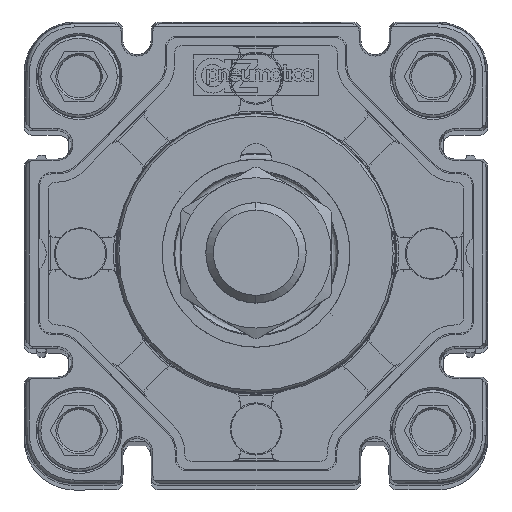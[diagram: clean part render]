
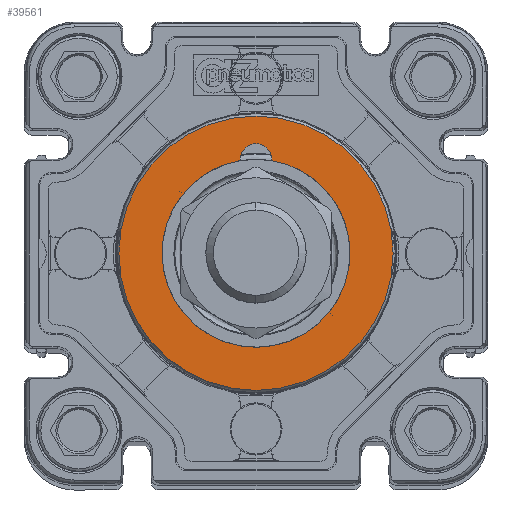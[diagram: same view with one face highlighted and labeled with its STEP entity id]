
A CAD part, top view. The second image highlights one B-rep face of the part: STEP entity #39561.
In plain terms, the highlighted planar face has unit normal (0, 0, 1) as drawn and (0, 0, -1) by its records, which use the part's own axes.
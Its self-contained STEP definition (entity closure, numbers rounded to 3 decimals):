
#42 = ORIENTED_EDGE ( 'NONE', *, *, #23856, .T. ) ;
#242 = DIRECTION ( 'NONE',  ( -1., 0., 0. ) ) ;
#328 = EDGE_LOOP ( 'NONE', ( #26933, #48296 ) ) ;
#825 = VERTEX_POINT ( 'NONE', #51798 ) ;
#1522 = DIRECTION ( 'NONE',  ( 1., 0., 0. ) ) ;
#2790 = AXIS2_PLACEMENT_3D ( 'NONE', #49707, #37179, #1522 ) ;
#2874 = VERTEX_POINT ( 'NONE', #11145 ) ;
#3942 = CARTESIAN_POINT ( 'NONE',  ( 2.5, 15., -57.7 ) ) ;
#5275 = CARTESIAN_POINT ( 'NONE',  ( -15., 0., -57.7 ) ) ;
#5681 = CARTESIAN_POINT ( 'NONE',  ( 0., 0., -57.7 ) ) ;
#6339 = EDGE_CURVE ( 'NONE', #25802, #2874, #6519, .T. ) ;
#6519 = CIRCLE ( 'NONE', #27244, 21.892 ) ;
#6532 = AXIS2_PLACEMENT_3D ( 'NONE', #23706, #16742, #242 ) ;
#8918 = CARTESIAN_POINT ( 'NONE',  ( -2.491, 14.792, -57.7 ) ) ;
#9315 = PLANE ( 'NONE',  #23581 ) ;
#9456 = CIRCLE ( 'NONE', #51568, 2.5 ) ;
#11145 = CARTESIAN_POINT ( 'NONE',  ( 21.892, 0., -57.7 ) ) ;
#11701 = CIRCLE ( 'NONE', #21137, 15. ) ;
#13059 = EDGE_CURVE ( 'NONE', #37349, #40303, #28674, .T. ) ;
#13257 = DIRECTION ( 'NONE',  ( -1., 0., 0. ) ) ;
#13855 = ORIENTED_EDGE ( 'NONE', *, *, #27696, .T. ) ;
#14132 = DIRECTION ( 'NONE',  ( 0., 0., 1. ) ) ;
#14239 = DIRECTION ( 'NONE',  ( 0., 0., 1. ) ) ;
#14777 = VERTEX_POINT ( 'NONE', #5275 ) ;
#14970 = ORIENTED_EDGE ( 'NONE', *, *, #43990, .T. ) ;
#15221 = ORIENTED_EDGE ( 'NONE', *, *, #43258, .T. ) ;
#15534 = DIRECTION ( 'NONE',  ( 0., 0., 1. ) ) ;
#15705 = DIRECTION ( 'NONE',  ( 1., 0., 0. ) ) ;
#16538 = EDGE_CURVE ( 'NONE', #2874, #25802, #22432, .T. ) ;
#16742 = DIRECTION ( 'NONE',  ( 0., 0., 1. ) ) ;
#17090 = CARTESIAN_POINT ( 'NONE',  ( 2.491, 14.792, -57.7 ) ) ;
#18891 = EDGE_LOOP ( 'NONE', ( #14970, #41774, #13855, #42, #15221, #44882 ) ) ;
#18978 = DIRECTION ( 'NONE',  ( 0., 0., 1. ) ) ;
#21112 = EDGE_CURVE ( 'NONE', #825, #37488, #11701, .T. ) ;
#21137 = AXIS2_PLACEMENT_3D ( 'NONE', #23793, #23331, #22730 ) ;
#21847 = FACE_BOUND ( 'NONE', #18891, .T. ) ;
#22432 = CIRCLE ( 'NONE', #31203, 21.892 ) ;
#22730 = DIRECTION ( 'NONE',  ( 1., 0., 0. ) ) ;
#23331 = DIRECTION ( 'NONE',  ( 0., 0., 1. ) ) ;
#23581 = AXIS2_PLACEMENT_3D ( 'NONE', #41445, #25308, #13257 ) ;
#23706 = CARTESIAN_POINT ( 'NONE',  ( 0., 15., -57.7 ) ) ;
#23793 = CARTESIAN_POINT ( 'NONE',  ( 0., 0., -57.7 ) ) ;
#23856 = EDGE_CURVE ( 'NONE', #25680, #14777, #49315, .T. ) ;
#25308 = DIRECTION ( 'NONE',  ( 0., 0., -1. ) ) ;
#25371 = CIRCLE ( 'NONE', #6532, 2.5 ) ;
#25680 = VERTEX_POINT ( 'NONE', #8918 ) ;
#25802 = VERTEX_POINT ( 'NONE', #52127 ) ;
#26933 = ORIENTED_EDGE ( 'NONE', *, *, #6339, .F. ) ;
#26982 = CARTESIAN_POINT ( 'NONE',  ( 0., 0., -57.7 ) ) ;
#27244 = AXIS2_PLACEMENT_3D ( 'NONE', #26982, #18978, #35470 ) ;
#27696 = EDGE_CURVE ( 'NONE', #40303, #25680, #9456, .T. ) ;
#28175 = AXIS2_PLACEMENT_3D ( 'NONE', #39827, #15534, #15705 ) ;
#28529 = CARTESIAN_POINT ( 'NONE',  ( -2.5, 15., -57.7 ) ) ;
#28674 = CIRCLE ( 'NONE', #46111, 2.5 ) ;
#31035 = DIRECTION ( 'NONE',  ( -1., 0., 0. ) ) ;
#31203 = AXIS2_PLACEMENT_3D ( 'NONE', #5681, #46393, #38175 ) ;
#34295 = CARTESIAN_POINT ( 'NONE',  ( 0., 15., -57.7 ) ) ;
#34368 = CIRCLE ( 'NONE', #28175, 15. ) ;
#35470 = DIRECTION ( 'NONE',  ( -1., 0., 0. ) ) ;
#37179 = DIRECTION ( 'NONE',  ( 0., 0., 1. ) ) ;
#37349 = VERTEX_POINT ( 'NONE', #3942 ) ;
#37488 = VERTEX_POINT ( 'NONE', #17090 ) ;
#37515 = DIRECTION ( 'NONE',  ( -1., 0., 0. ) ) ;
#38175 = DIRECTION ( 'NONE',  ( -1., 0., 0. ) ) ;
#39561 = ADVANCED_FACE ( 'NONE', ( #47964, #21847 ), #9315, .T. ) ;
#39827 = CARTESIAN_POINT ( 'NONE',  ( 0., 0., -57.7 ) ) ;
#40303 = VERTEX_POINT ( 'NONE', #28529 ) ;
#41445 = CARTESIAN_POINT ( 'NONE',  ( 0., 0., -57.7 ) ) ;
#41774 = ORIENTED_EDGE ( 'NONE', *, *, #13059, .T. ) ;
#42805 = CARTESIAN_POINT ( 'NONE',  ( 0., 15., -57.7 ) ) ;
#43258 = EDGE_CURVE ( 'NONE', #14777, #825, #34368, .T. ) ;
#43990 = EDGE_CURVE ( 'NONE', #37488, #37349, #25371, .T. ) ;
#44882 = ORIENTED_EDGE ( 'NONE', *, *, #21112, .T. ) ;
#46111 = AXIS2_PLACEMENT_3D ( 'NONE', #42805, #14239, #31035 ) ;
#46393 = DIRECTION ( 'NONE',  ( 0., 0., 1. ) ) ;
#47964 = FACE_OUTER_BOUND ( 'NONE', #328, .T. ) ;
#48296 = ORIENTED_EDGE ( 'NONE', *, *, #16538, .F. ) ;
#49315 = CIRCLE ( 'NONE', #2790, 15. ) ;
#49707 = CARTESIAN_POINT ( 'NONE',  ( 0., 0., -57.7 ) ) ;
#51568 = AXIS2_PLACEMENT_3D ( 'NONE', #34295, #14132, #37515 ) ;
#51798 = CARTESIAN_POINT ( 'NONE',  ( 15., 0., -57.7 ) ) ;
#52127 = CARTESIAN_POINT ( 'NONE',  ( -21.892, 0., -57.7 ) ) ;
